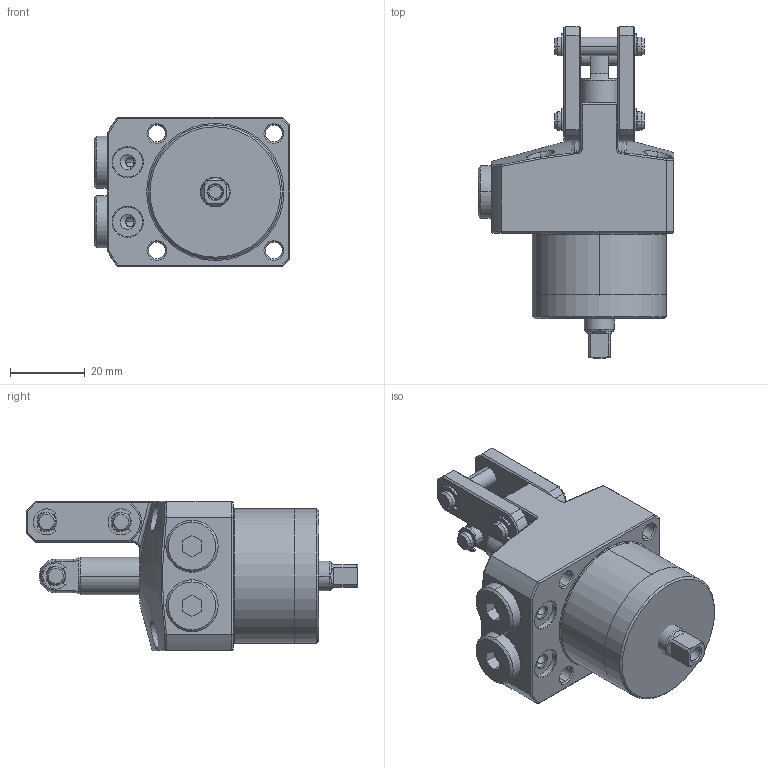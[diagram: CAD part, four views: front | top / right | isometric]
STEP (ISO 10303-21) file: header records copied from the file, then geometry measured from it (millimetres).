
FILE_DESCRIPTION(/* description */ (''),/* implementation_level */ '2;1');
FILE_NAME(/* name */ 'KTPC36-RD.stp',/* time_stamp */ '2022-11-18T16:06:31+08:00',/* author */ (''),/* organization */ (''),/* preprocessor_version */ 'ST-DEVELOPER v16.7',/* originating_system */ 'SIEMENS PLM Software NX 12.0',/* authorisation */ '');
FILE_SCHEMA (('AP203_CONFIGURATION_CONTROLLED_3D_DESIGN_OF_MECHANICAL_PARTS_AND_ASSEMBLIES_MIM_LF { 1 0 10303 403 2 1 2}'));
Length unit declared in the file: millimetre
Products named in the file (9): KTPC36-RD-04; KTPC36-RD-01; KTPC36-RD-06; KTPC36-RD-05; KTPC36-RD-03; KTPC36-RD-02; KTPC36-RD-08; KTPC36-RD-07; LKA0360-CRD_step
Assembly tree (16 placements, depth 2):
  LKA0360-CRD_step
    KTPC36-RD-07  x2
    KTPC36-RD-08  x6
    KTPC36-RD-02
    KTPC36-RD-03
    KTPC36-RD-05  x2
    KTPC36-RD-06
    KTPC36-RD-01
    KTPC36-RD-04  x2
Bounding box: 52.5 x 89 x 40 mm (x, y, z)
Volume: 89109.5 mm3; surface area: 23212.3 mm2
Topology: 16 solids, 16 shells, 555 faces, 1322 edges, 822 vertices
Faces by surface type: cylinder 210, plane 185, cone 75, torus 64, bspline 19, sphere 2
Full cylindrical faces by diameter (mm): 36 x1
Entity records: 12446 total; most frequent: CARTESIAN_POINT 3297, DIRECTION 1709, ORIENTED_EDGE 1610, EDGE_CURVE 805, AXIS2_PLACEMENT_3D 695, VERTEX_POINT 495, EDGE_LOOP 390, CIRCLE 349
